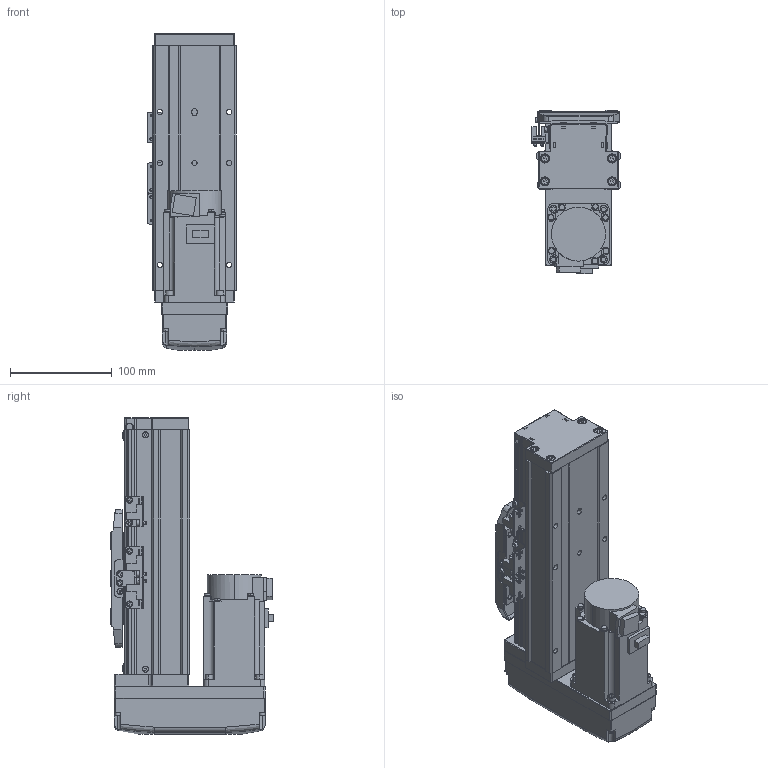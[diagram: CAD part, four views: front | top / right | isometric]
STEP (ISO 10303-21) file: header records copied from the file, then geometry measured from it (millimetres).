
FILE_DESCRIPTION (( 'STEP AP203' ), '1' );
FILE_NAME ('GTH8-50-BM-M20-C4.step', '2022-09-23T01:05:26', ( '微软用户' ), ( '微软中国' ), 'SwSTEP 2.0', 'SolidWorks 2020', '' );
FILE_SCHEMA (( 'CONFIG_CONTROL_DESIGN' ));
Length unit declared in the file: millimetre
Products named in the file (18): GBT 70.1-M3℅6; hg-kn43j_-s100_; GTH80-003; GBT 70.1-M4×16; CTHA86-015-1_CTHA86-015-2; GTH80-004; GTH80-028; CTHA86-033_M40B; GTH80-006; GTH50-024; GTH8-50-BM-M20-C4; GTH80-013; GTH50-023; GBT 70.3-M3℅6; GBT96.1-2002 3×0.8; GTH80-022; BTH-M3X5X6; GTH80-001_50
Assembly tree (57 placements, depth 2):
  GTH8-50-BM-M20-C4
    GTH80-001_50
    GTH80-003
    GTH80-004
    GTH80-006
    GTH80-013
    GBT 70.3-M3℅6  x4
    GTH80-022
    GBT 70.1-M3℅6  x14
    GBT 70.1-M4×16  x8
    GTH80-028  x2
    GTH50-024  x3
    GTH50-023  x3
    GBT96.1-2002 3×0.8  x6
    BTH-M3X5X6  x8
    hg-kn43j_-s100_
    CTHA86-015-1_CTHA86-015-2
    CTHA86-033_M40B
Bounding box: 86.9 x 160.3 x 311 mm (x, y, z)
Volume: 2031545.8 mm3; surface area: 279336.6 mm2
Topology: 59 solids, 59 shells, 2220 faces, 5115 edges, 3131 vertices
Faces by surface type: plane 1187, cylinder 591, cone 260, torus 166, bspline 8, sphere 8
Entity records: 40182 total; most frequent: CARTESIAN_POINT 7073, DIRECTION 6509, ORIENTED_EDGE 6048, EDGE_CURVE 3024, AXIS2_PLACEMENT_3D 2265, VECTOR 1979, LINE 1979, VERTEX_POINT 1906
